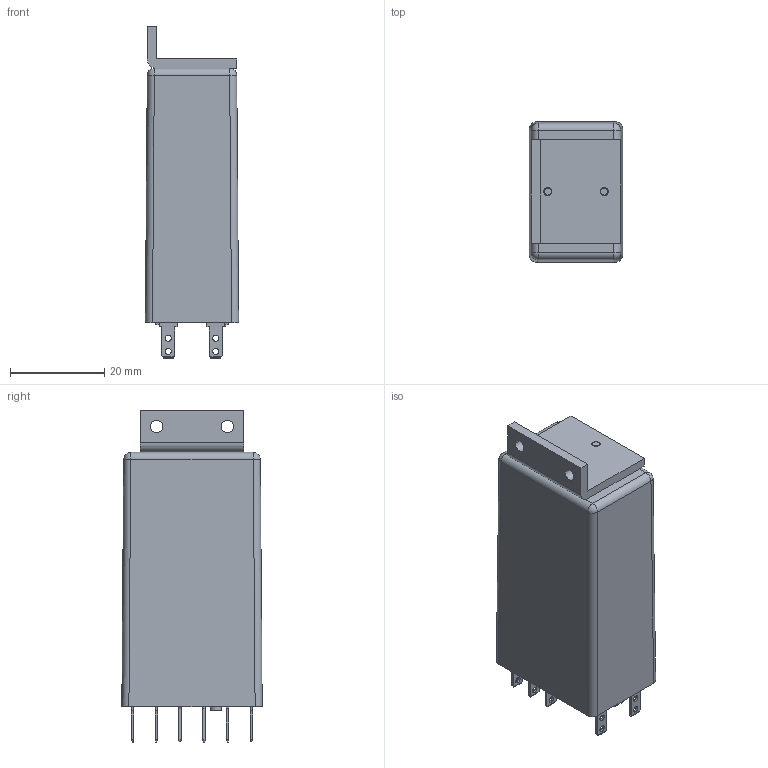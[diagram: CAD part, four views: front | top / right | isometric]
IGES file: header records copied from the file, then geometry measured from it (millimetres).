
Global section: file name: No Iges File Name specified; native system: Autodesk Inventor 2011; preprocessor: AutoDesk Inventor Iges Exporter R2011; author: oey; date: 20110309.090423; units: millimetre
Bounding box: 19.8 x 29.8 x 70.5 mm (x, y, z)
Volume: 17345.3 mm3; surface area: 23754.7 mm2
Topology: 1 solids, 11 shells, 1517 faces, 4366 edges, 2818 vertices
Faces by surface type: plane 760, cylinder 250, bspline 214, revolution 187, torus 54, cone 46, sphere 6
